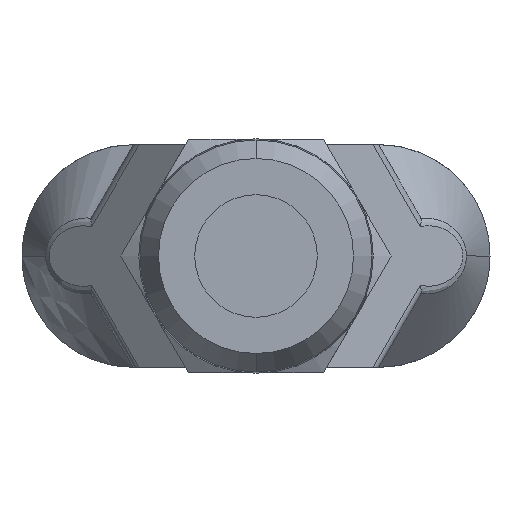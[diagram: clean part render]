
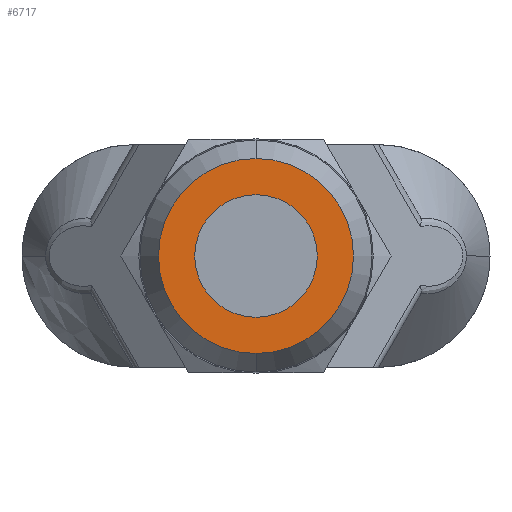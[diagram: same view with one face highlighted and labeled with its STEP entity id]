
A CAD part, front view. The second image highlights one B-rep face of the part: STEP entity #6717.
In plain terms, the highlighted planar face has unit normal (0, -1, 0).
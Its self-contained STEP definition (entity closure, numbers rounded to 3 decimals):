
#687 = PLANE ( 'NONE',  #15680 ) ;
#694 = CARTESIAN_POINT ( 'NONE',  ( 0.43, -34.857, 0. ) ) ;
#695 = DIRECTION ( 'NONE',  ( 0., 1., 0. ) ) ;
#696 = DIRECTION ( 'NONE',  ( 0., 0., 1. ) ) ;
#1833 = EDGE_CURVE ( 'NONE', #7272, #7274, #6595, .T. ) ;
#1838 = EDGE_CURVE ( 'NONE', #7278, #7279, #6606, .T. ) ;
#1891 = EDGE_CURVE ( 'NONE', #7279, #7278, #5343, .T. ) ;
#1892 = EDGE_CURVE ( 'NONE', #7274, #7272, #5344, .T. ) ;
#5343 = CIRCLE ( 'NONE', #8884, 5.5 ) ;
#5344 = CIRCLE ( 'NONE', #8885, 8.75 ) ;
#6493 = EDGE_LOOP ( 'NONE', ( #13844, #13845 ) ) ;
#6495 = EDGE_LOOP ( 'NONE', ( #13842, #13843 ) ) ;
#6595 = CIRCLE ( 'NONE', #8862, 8.75 ) ;
#6606 = CIRCLE ( 'NONE', #8864, 5.5 ) ;
#6717 = ADVANCED_FACE ( 'NONE', ( #10100, #10104 ), #687, .F. ) ;
#7272 = VERTEX_POINT ( 'NONE', #15919 ) ;
#7274 = VERTEX_POINT ( 'NONE', #15921 ) ;
#7278 = VERTEX_POINT ( 'NONE', #15925 ) ;
#7279 = VERTEX_POINT ( 'NONE', #15926 ) ;
#8862 = AXIS2_PLACEMENT_3D ( 'NONE', #19599, #19598, #19597 ) ;
#8864 = AXIS2_PLACEMENT_3D ( 'NONE', #19586, #19585, #19584 ) ;
#8884 = AXIS2_PLACEMENT_3D ( 'NONE', #18974, #18973, #18972 ) ;
#8885 = AXIS2_PLACEMENT_3D ( 'NONE', #18971, #18970, #18968 ) ;
#10100 = FACE_BOUND ( 'NONE', #6495, .T. ) ;
#10104 = FACE_OUTER_BOUND ( 'NONE', #6493, .T. ) ;
#13842 = ORIENTED_EDGE ( 'NONE', *, *, #1891, .F. ) ;
#13843 = ORIENTED_EDGE ( 'NONE', *, *, #1838, .F. ) ;
#13844 = ORIENTED_EDGE ( 'NONE', *, *, #1833, .F. ) ;
#13845 = ORIENTED_EDGE ( 'NONE', *, *, #1892, .F. ) ;
#15680 = AXIS2_PLACEMENT_3D ( 'NONE', #694, #695, #696 ) ;
#15919 = CARTESIAN_POINT ( 'NONE',  ( 0.43, -34.857, 8.75 ) ) ;
#15921 = CARTESIAN_POINT ( 'NONE',  ( 0.43, -34.857, -8.75 ) ) ;
#15925 = CARTESIAN_POINT ( 'NONE',  ( 0.43, -34.857, 5.5 ) ) ;
#15926 = CARTESIAN_POINT ( 'NONE',  ( 0.43, -34.857, -5.5 ) ) ;
#18968 = DIRECTION ( 'NONE',  ( 0., 0., 1. ) ) ;
#18970 = DIRECTION ( 'NONE',  ( 0., 1., 0. ) ) ;
#18971 = CARTESIAN_POINT ( 'NONE',  ( 0.43, -34.857, 0. ) ) ;
#18972 = DIRECTION ( 'NONE',  ( 0., 0., -1. ) ) ;
#18973 = DIRECTION ( 'NONE',  ( 0., -1., 0. ) ) ;
#18974 = CARTESIAN_POINT ( 'NONE',  ( 0.43, -34.857, 0. ) ) ;
#19584 = DIRECTION ( 'NONE',  ( 0., 0., -1. ) ) ;
#19585 = DIRECTION ( 'NONE',  ( 0., -1., 0. ) ) ;
#19586 = CARTESIAN_POINT ( 'NONE',  ( 0.43, -34.857, 0. ) ) ;
#19597 = DIRECTION ( 'NONE',  ( 0., 0., 1. ) ) ;
#19598 = DIRECTION ( 'NONE',  ( 0., 1., 0. ) ) ;
#19599 = CARTESIAN_POINT ( 'NONE',  ( 0.43, -34.857, 0. ) ) ;
